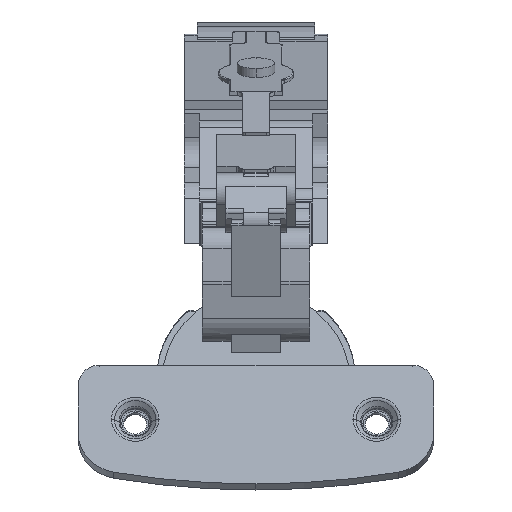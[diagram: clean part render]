
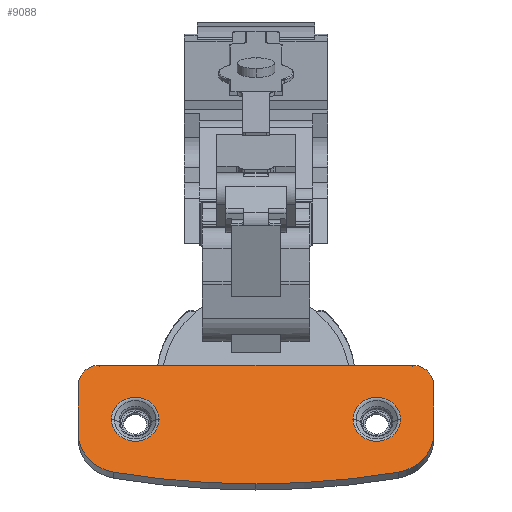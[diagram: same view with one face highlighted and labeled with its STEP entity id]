
A CAD part, top view. The second image highlights one B-rep face of the part: STEP entity #9088.
In plain terms, the highlighted planar face has unit normal (0, 0.375, 0.927).
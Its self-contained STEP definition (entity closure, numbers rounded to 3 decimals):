
#200 = VERTEX_POINT ( 'NONE', #6972 ) ;
#470 = VERTEX_POINT ( 'NONE', #29644 ) ;
#552 = VECTOR ( 'NONE', #21203, 1000. ) ;
#670 = FACE_OUTER_BOUND ( 'NONE', #26664, .T. ) ;
#1057 = CARTESIAN_POINT ( 'NONE',  ( 22.443, 149.618, 53.011 ) ) ;
#1067 = CIRCLE ( 'NONE', #7026, 4. ) ;
#1499 = ORIENTED_EDGE ( 'NONE', *, *, #20515, .T. ) ;
#1864 = CARTESIAN_POINT ( 'NONE',  ( -10.657, 20.047, 105.409 ) ) ;
#1873 = CARTESIAN_POINT ( 'NONE',  ( -4.488, 22.61, 104.372 ) ) ;
#2756 = CARTESIAN_POINT ( 'NONE',  ( -4.071, 12.748, 108.361 ) ) ;
#2811 = CARTESIAN_POINT ( 'NONE',  ( -6.657, 32.715, 100.286 ) ) ;
#3449 = VERTEX_POINT ( 'NONE', #29107 ) ;
#3656 = CARTESIAN_POINT ( 'NONE',  ( -0.057, 22.61, 104.372 ) ) ;
#3698 = CARTESIAN_POINT ( 'NONE',  ( -0.057, 22.61, 104.372 ) ) ;
#3943 = VERTEX_POINT ( 'NONE', #2811 ) ;
#4281 = AXIS2_PLACEMENT_3D ( 'NONE', #23707, #23544, #27921 ) ;
#4461 = DIRECTION ( 'NONE',  ( 0., 0.375, 0.927 ) ) ;
#5012 = CIRCLE ( 'NONE', #27839, 4. ) ;
#5253 = EDGE_CURVE ( 'NONE', #6582, #200, #29690, .T. ) ;
#5323 = VECTOR ( 'NONE', #9160, 1000. ) ;
#5373 = CARTESIAN_POINT ( 'NONE',  ( 44.943, 22.61, 104.372 ) ) ;
#5492 = CARTESIAN_POINT ( 'NONE',  ( 51.543, 29.007, 101.786 ) ) ;
#5516 = AXIS2_PLACEMENT_3D ( 'NONE', #5373, #29309, #26670 ) ;
#5625 = EDGE_CURVE ( 'NONE', #9711, #6854, #12285, .T. ) ;
#5640 = EDGE_LOOP ( 'NONE', ( #1499, #15340 ) ) ;
#5714 = DIRECTION ( 'NONE',  ( 1., 0., 0. ) ) ;
#5892 = DIRECTION ( 'NONE',  ( 1., 0., 0. ) ) ;
#5904 = AXIS2_PLACEMENT_3D ( 'NONE', #3656, #22457, #8016 ) ;
#6164 = DIRECTION ( 'NONE',  ( 0., -0.927, 0.375 ) ) ;
#6377 = LINE ( 'NONE', #1864, #5323 ) ;
#6474 = EDGE_CURVE ( 'NONE', #7673, #18621, #23243, .T. ) ;
#6582 = VERTEX_POINT ( 'NONE', #10224 ) ;
#6693 = CARTESIAN_POINT ( 'NONE',  ( 48.957, 12.748, 108.361 ) ) ;
#6795 = VECTOR ( 'NONE', #27338, 1000. ) ;
#6854 = VERTEX_POINT ( 'NONE', #28548 ) ;
#6946 = CARTESIAN_POINT ( 'NONE',  ( 40.512, 22.61, 104.372 ) ) ;
#6972 = CARTESIAN_POINT ( 'NONE',  ( 55.543, 29.007, 101.786 ) ) ;
#7026 = AXIS2_PLACEMENT_3D ( 'NONE', #21054, #4461, #30576 ) ;
#7175 = ORIENTED_EDGE ( 'NONE', *, *, #10444, .T. ) ;
#7210 = DIRECTION ( 'NONE',  ( 0., 0.375, 0.927 ) ) ;
#7673 = VERTEX_POINT ( 'NONE', #6946 ) ;
#7977 = DIRECTION ( 'NONE',  ( 1., 0., 0. ) ) ;
#8016 = DIRECTION ( 'NONE',  ( 1., 0., 0. ) ) ;
#9051 = EDGE_CURVE ( 'NONE', #6854, #21130, #28958, .T. ) ;
#9088 = ADVANCED_FACE ( 'NONE', ( #670, #12490, #26795 ), #22419, .T. ) ;
#9160 = DIRECTION ( 'NONE',  ( 0., -0.927, 0.375 ) ) ;
#9711 = VERTEX_POINT ( 'NONE', #2756 ) ;
#10118 = AXIS2_PLACEMENT_3D ( 'NONE', #3698, #15978, #5892 ) ;
#10150 = DIRECTION ( 'NONE',  ( 0., 0.375, 0.927 ) ) ;
#10224 = CARTESIAN_POINT ( 'NONE',  ( 55.543, 20.047, 105.409 ) ) ;
#10444 = EDGE_CURVE ( 'NONE', #3943, #470, #5012, .T. ) ;
#10707 = EDGE_CURVE ( 'NONE', #3449, #16390, #13002, .T. ) ;
#11091 = AXIS2_PLACEMENT_3D ( 'NONE', #28512, #7210, #26182 ) ;
#11697 = DIRECTION ( 'NONE',  ( 0., -0.927, 0.375 ) ) ;
#11748 = CARTESIAN_POINT ( 'NONE',  ( -6.657, 32.715, 100.286 ) ) ;
#12190 = EDGE_CURVE ( 'NONE', #26451, #9711, #17673, .T. ) ;
#12285 = CIRCLE ( 'NONE', #20694, 150. ) ;
#12490 = FACE_BOUND ( 'NONE', #5640, .T. ) ;
#12960 = DIRECTION ( 'NONE',  ( 0., 0.375, 0.927 ) ) ;
#13002 = CIRCLE ( 'NONE', #10118, 4.431 ) ;
#13593 = CIRCLE ( 'NONE', #26970, 8. ) ;
#14074 = LINE ( 'NONE', #11748, #552 ) ;
#15340 = ORIENTED_EDGE ( 'NONE', *, *, #6474, .T. ) ;
#15978 = DIRECTION ( 'NONE',  ( 0., -0.375, -0.927 ) ) ;
#16390 = VERTEX_POINT ( 'NONE', #1873 ) ;
#17673 = CIRCLE ( 'NONE', #4281, 8. ) ;
#18029 = CARTESIAN_POINT ( 'NONE',  ( -10.657, 20.047, 105.409 ) ) ;
#18261 = AXIS2_PLACEMENT_3D ( 'NONE', #29206, #19855, #5714 ) ;
#18420 = EDGE_CURVE ( 'NONE', #24176, #3943, #14074, .T. ) ;
#18501 = CARTESIAN_POINT ( 'NONE',  ( 49.375, 22.61, 104.372 ) ) ;
#18612 = EDGE_LOOP ( 'NONE', ( #30731, #26352 ) ) ;
#18621 = VERTEX_POINT ( 'NONE', #18501 ) ;
#19377 = ORIENTED_EDGE ( 'NONE', *, *, #5253, .T. ) ;
#19855 = DIRECTION ( 'NONE',  ( 0., -0.375, -0.927 ) ) ;
#20292 = ORIENTED_EDGE ( 'NONE', *, *, #27947, .T. ) ;
#20427 = EDGE_CURVE ( 'NONE', #200, #24176, #1067, .T. ) ;
#20515 = EDGE_CURVE ( 'NONE', #18621, #7673, #30362, .T. ) ;
#20694 = AXIS2_PLACEMENT_3D ( 'NONE', #1057, #22481, #6164 ) ;
#20782 = ORIENTED_EDGE ( 'NONE', *, *, #18420, .T. ) ;
#21054 = CARTESIAN_POINT ( 'NONE',  ( 51.543, 29.007, 101.786 ) ) ;
#21130 = VERTEX_POINT ( 'NONE', #6693 ) ;
#21159 = ORIENTED_EDGE ( 'NONE', *, *, #20427, .T. ) ;
#21203 = DIRECTION ( 'NONE',  ( -1., 0., 0. ) ) ;
#21430 = ORIENTED_EDGE ( 'NONE', *, *, #22996, .T. ) ;
#22030 = ORIENTED_EDGE ( 'NONE', *, *, #12190, .T. ) ;
#22419 = PLANE ( 'NONE',  #29479 ) ;
#22457 = DIRECTION ( 'NONE',  ( 0., -0.375, -0.927 ) ) ;
#22481 = DIRECTION ( 'NONE',  ( 0., 0.375, 0.927 ) ) ;
#22996 = EDGE_CURVE ( 'NONE', #21130, #6582, #13593, .T. ) ;
#23243 = CIRCLE ( 'NONE', #18261, 4.431 ) ;
#23249 = ORIENTED_EDGE ( 'NONE', *, *, #5625, .T. ) ;
#23377 = CARTESIAN_POINT ( 'NONE',  ( 51.543, 32.715, 100.286 ) ) ;
#23544 = DIRECTION ( 'NONE',  ( 0., 0.375, 0.927 ) ) ;
#23707 = CARTESIAN_POINT ( 'NONE',  ( -2.657, 20.047, 105.409 ) ) ;
#24099 = ORIENTED_EDGE ( 'NONE', *, *, #9051, .T. ) ;
#24176 = VERTEX_POINT ( 'NONE', #23377 ) ;
#24274 = CIRCLE ( 'NONE', #5904, 4.431 ) ;
#25076 = CARTESIAN_POINT ( 'NONE',  ( 47.543, 20.047, 105.409 ) ) ;
#25841 = DIRECTION ( 'NONE',  ( 0., 0.375, 0.927 ) ) ;
#26147 = CARTESIAN_POINT ( 'NONE',  ( -6.657, 29.007, 101.786 ) ) ;
#26182 = DIRECTION ( 'NONE',  ( 0., -0.927, 0.375 ) ) ;
#26352 = ORIENTED_EDGE ( 'NONE', *, *, #29657, .T. ) ;
#26451 = VERTEX_POINT ( 'NONE', #18029 ) ;
#26664 = EDGE_LOOP ( 'NONE', ( #21159, #20782, #7175, #20292, #22030, #23249, #24099, #21430, #19377 ) ) ;
#26670 = DIRECTION ( 'NONE',  ( 1., 0., 0. ) ) ;
#26795 = FACE_BOUND ( 'NONE', #18612, .T. ) ;
#26970 = AXIS2_PLACEMENT_3D ( 'NONE', #25076, #12960, #29442 ) ;
#27338 = DIRECTION ( 'NONE',  ( 0., 0.927, -0.375 ) ) ;
#27839 = AXIS2_PLACEMENT_3D ( 'NONE', #26147, #25841, #11697 ) ;
#27921 = DIRECTION ( 'NONE',  ( 0., -0.927, 0.375 ) ) ;
#27947 = EDGE_CURVE ( 'NONE', #470, #26451, #6377, .T. ) ;
#28512 = CARTESIAN_POINT ( 'NONE',  ( 22.443, 149.618, 53.011 ) ) ;
#28548 = CARTESIAN_POINT ( 'NONE',  ( 22.443, 10.558, 109.246 ) ) ;
#28958 = CIRCLE ( 'NONE', #11091, 150. ) ;
#29107 = CARTESIAN_POINT ( 'NONE',  ( 4.375, 22.61, 104.372 ) ) ;
#29206 = CARTESIAN_POINT ( 'NONE',  ( 44.943, 22.61, 104.372 ) ) ;
#29309 = DIRECTION ( 'NONE',  ( 0., -0.375, -0.927 ) ) ;
#29442 = DIRECTION ( 'NONE',  ( 0., -0.927, 0.375 ) ) ;
#29479 = AXIS2_PLACEMENT_3D ( 'NONE', #5492, #10150, #7977 ) ;
#29644 = CARTESIAN_POINT ( 'NONE',  ( -10.657, 29.007, 101.786 ) ) ;
#29657 = EDGE_CURVE ( 'NONE', #16390, #3449, #24274, .T. ) ;
#29690 = LINE ( 'NONE', #29835, #6795 ) ;
#29835 = CARTESIAN_POINT ( 'NONE',  ( 55.543, 29.007, 101.786 ) ) ;
#30362 = CIRCLE ( 'NONE', #5516, 4.431 ) ;
#30576 = DIRECTION ( 'NONE',  ( 0., -0.927, 0.375 ) ) ;
#30731 = ORIENTED_EDGE ( 'NONE', *, *, #10707, .T. ) ;
